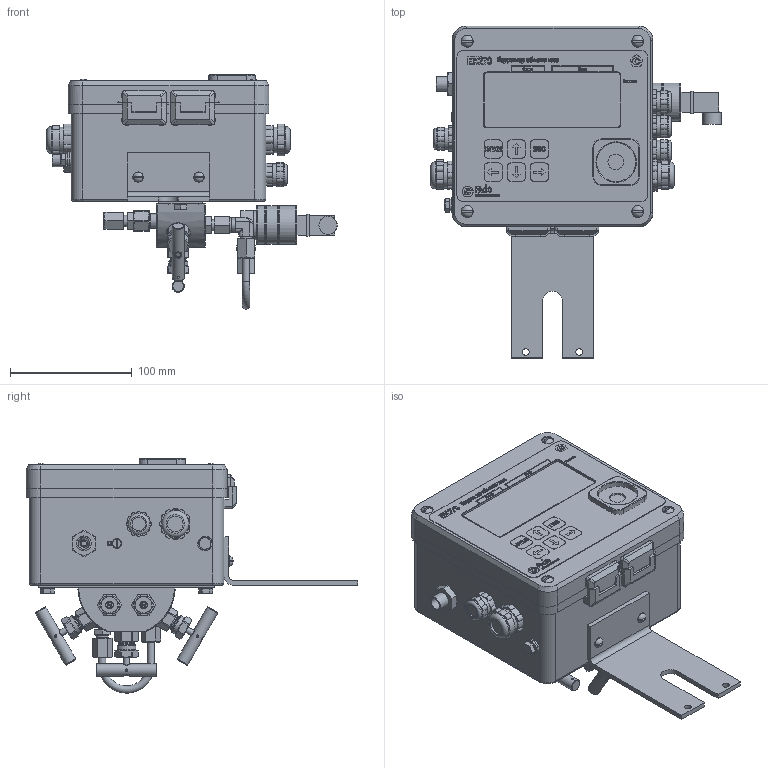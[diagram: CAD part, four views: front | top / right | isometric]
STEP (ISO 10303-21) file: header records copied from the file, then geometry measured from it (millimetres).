
FILE_DESCRIPTION(('STEP AP203'), '1');
FILE_NAME('EK270_UzelPPD_skobaS1', '', ('UNSPECIFIED'), ('UNSPECIFIED'), 'C3D Converter', 'C3D Toolkit', '');
FILE_SCHEMA(('CONFIG_CONTROL_DESIGN'));
Length unit declared in the file: millimetre
Products named in the file (5): 17; 9; 19; 20; 21
Assembly tree (5 placements, depth 2):
  17
    9
    19
    20  x2
    21
Bounding box: 238.39 x 272.5 x 192.46 mm (x, y, z)
Volume: 2850735.5 mm3; surface area: 397944.3 mm2
Topology: 92 solids, 103 shells, 4592 faces, 12146 edges, 7943 vertices
Faces by surface type: plane 3232, cylinder 737, extrusion 320, cone 223, torus 62, bspline 11, sphere 7
Full cylindrical faces by diameter (mm): 1.95 x3, 2 x13, 2.5 x4, 2.791 x2, 3.2 x9, 3.3 x4, 3.45 x3, 3.5 x2, 4 x17, 4.249 x1, 4.3 x1, 4.8 x2, 5 x19, 5.5 x11, 6 x29, 6.2 x4, 6.4 x4, 6.5 x12, 6.6 x4, 7 x15, 8 x4, 8.5 x2, 8.77 x2, 9 x10, 9.4 x4, 9.8 x6, 10 x20, 10.376 x4, 10.4 x2, 10.5 x1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
Entity records: 187156 total; most frequent: CARTESIAN_POINT 54383, ORIENTED_EDGE 23103, DIRECTION 21009, EDGE_CURVE 11583, VECTOR 9127, LINE 8807, VERTEX_POINT 7913, AXIS2_PLACEMENT_3D 5941
